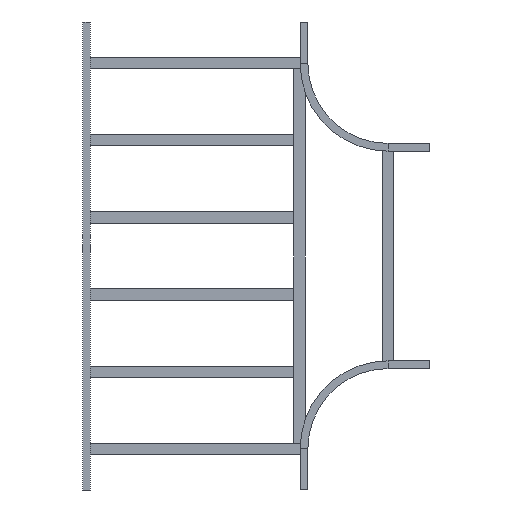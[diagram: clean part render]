
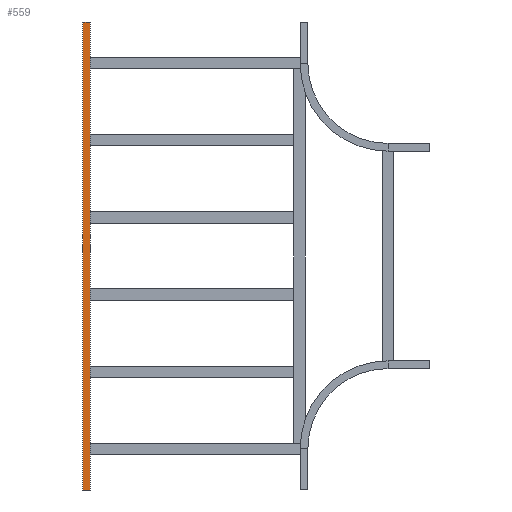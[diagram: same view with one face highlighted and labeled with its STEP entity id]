
A CAD part, front view. The second image highlights one B-rep face of the part: STEP entity #559.
In plain terms, the highlighted planar face has unit normal (0, -1, 0).
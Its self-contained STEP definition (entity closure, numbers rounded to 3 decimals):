
#121 = LINE ( 'NONE', #1382, #2067 ) ;
#302 = DIRECTION ( 'NONE',  ( 1., 0., 0. ) ) ;
#559 = ADVANCED_FACE ( 'NONE', ( #3016 ), #2039, .T. ) ;
#595 = EDGE_CURVE ( 'NONE', #3014, #2482, #1793, .T. ) ;
#598 = DIRECTION ( 'NONE',  ( 0., 0., 1. ) ) ;
#614 = EDGE_CURVE ( 'NONE', #2482, #3228, #3052, .T. ) ;
#648 = CARTESIAN_POINT ( 'NONE',  ( 0., 0., -1700. ) ) ;
#737 = EDGE_CURVE ( 'NONE', #3014, #2382, #2630, .T. ) ;
#788 = VECTOR ( 'NONE', #302, 1000. ) ;
#1030 = CARTESIAN_POINT ( 'NONE',  ( 28., 0., -1700. ) ) ;
#1049 = DIRECTION ( 'NONE',  ( 0., -1., 0. ) ) ;
#1218 = VECTOR ( 'NONE', #2805, 1000. ) ;
#1382 = CARTESIAN_POINT ( 'NONE',  ( 28., 0., 0. ) ) ;
#1726 = ORIENTED_EDGE ( 'NONE', *, *, #614, .T. ) ;
#1793 = LINE ( 'NONE', #2354, #788 ) ;
#1809 = CARTESIAN_POINT ( 'NONE',  ( 28., 0., -1700. ) ) ;
#1826 = CARTESIAN_POINT ( 'NONE',  ( 28., 0., 0. ) ) ;
#1912 = CARTESIAN_POINT ( 'NONE',  ( 0., 0., -1700. ) ) ;
#1981 = ORIENTED_EDGE ( 'NONE', *, *, #595, .T. ) ;
#2039 = PLANE ( 'NONE',  #2154 ) ;
#2067 = VECTOR ( 'NONE', #2860, 1000. ) ;
#2078 = DIRECTION ( 'NONE',  ( 1., 0., 0. ) ) ;
#2087 = CARTESIAN_POINT ( 'NONE',  ( 0., 0., 0. ) ) ;
#2154 = AXIS2_PLACEMENT_3D ( 'NONE', #1030, #1049, #2078 ) ;
#2354 = CARTESIAN_POINT ( 'NONE',  ( 28., 0., -1700. ) ) ;
#2382 = VERTEX_POINT ( 'NONE', #2087 ) ;
#2430 = EDGE_CURVE ( 'NONE', #2382, #3228, #121, .T. ) ;
#2482 = VERTEX_POINT ( 'NONE', #3144 ) ;
#2629 = EDGE_LOOP ( 'NONE', ( #2965, #2801, #1981, #1726 ) ) ;
#2630 = LINE ( 'NONE', #648, #3020 ) ;
#2801 = ORIENTED_EDGE ( 'NONE', *, *, #737, .F. ) ;
#2805 = DIRECTION ( 'NONE',  ( 0., 0., 1. ) ) ;
#2860 = DIRECTION ( 'NONE',  ( 1., 0., 0. ) ) ;
#2965 = ORIENTED_EDGE ( 'NONE', *, *, #2430, .F. ) ;
#3014 = VERTEX_POINT ( 'NONE', #1912 ) ;
#3016 = FACE_OUTER_BOUND ( 'NONE', #2629, .T. ) ;
#3020 = VECTOR ( 'NONE', #598, 1000. ) ;
#3052 = LINE ( 'NONE', #1809, #1218 ) ;
#3144 = CARTESIAN_POINT ( 'NONE',  ( 28., 0., -1700. ) ) ;
#3228 = VERTEX_POINT ( 'NONE', #1826 ) ;
